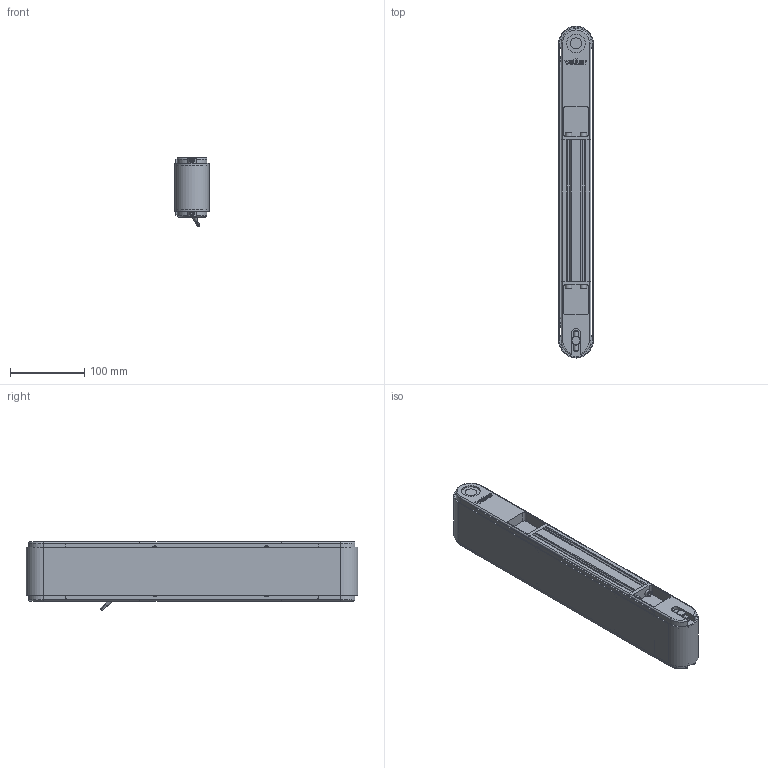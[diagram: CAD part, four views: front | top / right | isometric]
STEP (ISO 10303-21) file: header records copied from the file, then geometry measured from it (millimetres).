
FILE_DESCRIPTION(/* description */ (''),/* implementation_level */ '2;1');
FILE_NAME(/* name */ 'G:\DATEN\CAD\Förderband\Marketing\3D-Modelle (Standard)\FR-40-80\FR-40-80-400-K.stp',/* time_stamp */ '2019-05-08T08:13:23+02:00',/* author */ ('melanie.ochs'),/* organization */ (''),/* preprocessor_version */ 'ST-DEVELOPER v17',/* originating_system */ 'Autodesk Inventor 2019',/* authorisation */ '');
FILE_SCHEMA (('CONFIG_CONTROL_DESIGN'));
Length unit declared in the file: centimetre
Products named in the file (1): FR-40-80-400-K
Bounding box: 46.6 x 446.6 x 92.72 mm (x, y, z)
Volume: 884328.7 mm3; surface area: 310645 mm2
Topology: 1 solids, 25 shells, 1017 faces, 2769 edges, 1848 vertices
Faces by surface type: plane 525, cylinder 279, bspline 122, cone 61, torus 30
Full cylindrical faces by diameter (mm): 1 x6, 4 x6, 4.3 x4, 4.64 x2, 4.917 x1, 5 x11, 5.5 x8, 6 x4, 6.773 x1, 8 x4, 8.3 x4, 8.5 x8, 8.773 x1, 10 x1, 11 x1, 12 x3, 15 x4, 20 x2, 25 x2, 28 x4
Entity records: 34655 total; most frequent: CARTESIAN_POINT 8252, ORIENTED_EDGE 5518, DIRECTION 4984, EDGE_CURVE 2759, VERTEX_POINT 1848, AXIS2_PLACEMENT_3D 1724, LINE 1536, VECTOR 1536
